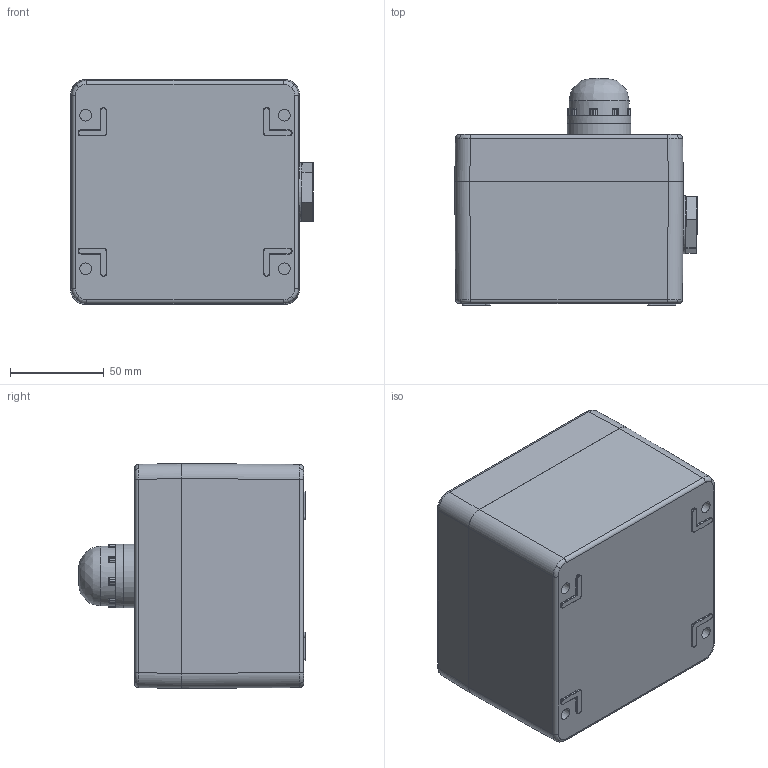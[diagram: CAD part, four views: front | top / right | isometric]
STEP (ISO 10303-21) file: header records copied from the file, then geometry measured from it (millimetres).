
FILE_DESCRIPTION(/* description */ (''),/* implementation_level */ '2;1');
FILE_NAME(/* name */ 'E:\Документы\\X2\041F0440043E0435043A0442044B\X0\ ТЕРМ\\X2\041A043E0440043E0431043A0438\X0\ соединительные\Взрывозащищённые коробки\TERMBOX Ex 120SL\TERMBOX Ex 120SL.stp',/* time_stamp */ '2025-10-02T16:12:34+05:00',/* author */ ('Vlad'),/* organization */ (''),/* preprocessor_version */ 'ST-DEVELOPER v15.6',/* originating_system */ 'Autodesk Inventor 2015',/* authorisation */ '');
FILE_SCHEMA (('AUTOMOTIVE_DESIGN { 1 0 10303 214 3 1 1 }'));
Products named in the file (15): 23251-Ex Unterteil; 86222; 86224; Заглушка \X2\044704510440
043D0430044F\X0\; Кольцо; TERMBOX Ex 120SL корпус; 93136; 23251-Ex Deckel; Гайка к \X2\043B0430
043C043F0435\X0\; Лампа ВЭЛАН; Уплотнитель; Наклейка; TERMBOX Ex 120SL крышка; TERMBOX Ex 120SL
Assembly tree (25 placements, depth 4):
  TERMBOX Ex 120SL
    TERMBOX Ex 120SL корпус
      23251-Ex Unterteil
        23251-Ex Unterteil
        86222  x6
        86224  x4
      Заглушка \X2\044704510440
043D0430044F\X0\
      Кольцо
    TERMBOX Ex 120SL крышка
      93136  x4
      23251-Ex Deckel
      Гайка к \X2\043B0430
043C043F0435\X0\
      Лампа ВЭЛАН
      Уплотнитель
      Наклейка
Bounding box: 129.42 x 121.1 x 120 mm (x, y, z)
Volume: 434678.9 mm3; surface area: 183601.1 mm2
Topology: 24 solids, 24 shells, 1345 faces, 3182 edges, 1891 vertices
Faces by surface type: plane 420, cylinder 368, bspline 347, cone 112, torus 76, sphere 22
Full cylindrical faces by diameter (mm): 3 x8, 5 x20, 5.02 x10, 5.3 x4, 6 x4, 7.4 x10, 8 x4, 12 x1, 19 x1, 21.5 x1, 23 x2, 25 x1, 27.5 x1, 30 x2, 31 x1, 32 x2, 34 x2
Entity records: 50862 total; most frequent: CARTESIAN_POINT 28647, ORIENTED_EDGE 4564, DIRECTION 4524, EDGE_CURVE 2282, AXIS2_PLACEMENT_3D 1905, VERTEX_POINT 1399, EDGE_LOOP 1207, FACE_OUTER_BOUND 1045
